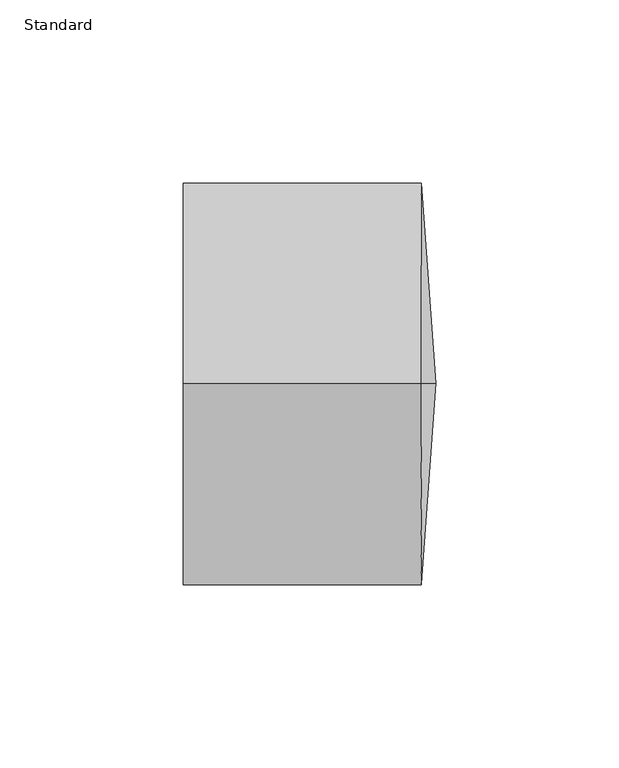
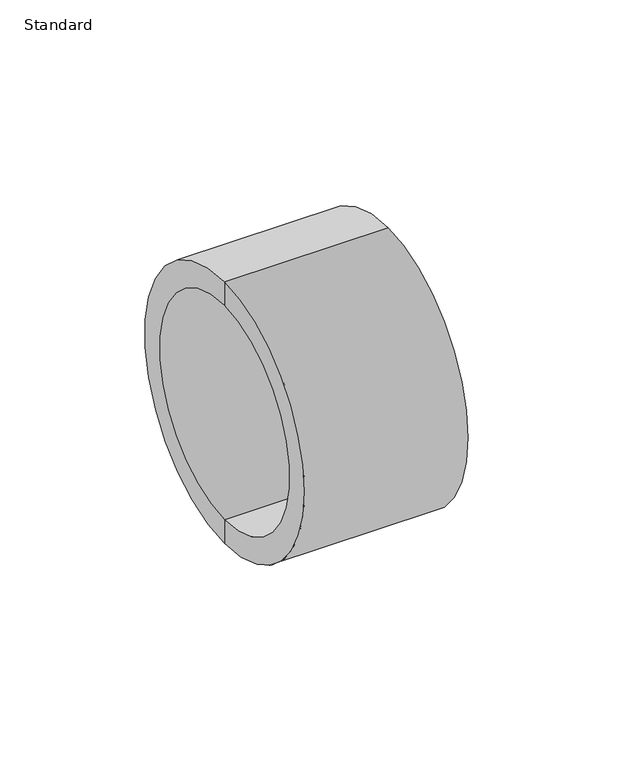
"""IFC4 building model written with IfcOpenShell, lengths in millimetres: pipe fitting geometry, Durapipe_PipeFitting_PVC_Cap : Standard."""

from ifc_helpers import new_model, si_unit, point, frame, origin, place, context, project, spatial, polyline, circle_curve, ellipse_curve, trimmed, source, transform, mapped, element, save
from ifc_brep_helpers import plane_surface, cylinder_surface, revolved_surface, advanced_brep


def standard_ca9f6d66(model_context):
    return source(origin(), model_context, "Body", "AdvancedBrep", [
        advanced_brep(
        [(0.0, 0.0, 0.0), (0.0, 0.0, 45.0), (0.0, 0.0, -45.0), (14.0, 0.0, -55.0), (14.0, 0.0, 55.0), (18.0, 0.0, 0.0), (-51.0, 0.0, -55.0), (-51.0, 0.0, 55.0), (-51.0, 0.0, -45.0), (-51.0, 0.0, 45.0)],
        [
            (0, 1),
            (1, 2, circle_curve(frame((0.0, 0.0, 0.0), z_axis=(-1.0, 0.0, 0.0), x_axis=(0.0, 0.0, 1.0)), 45.0)),
            (2, 0),
            (2, 1, circle_curve(frame((0.0, 0.0, 0.0), z_axis=(-1.0, 0.0, 0.0), x_axis=(0.0, 0.0, 1.0)), 45.0)),
            (3, 4, circle_curve(frame((14.0, 0.0, 0.0), z_axis=(1.0, 0.0, 0.0), x_axis=(0.0, 0.0, 1.0)), 55.0)),
            (4, 5, circle_curve(frame((-346.6641309, 0.0, 1.1244268), z_axis=(0.0, 1.0, 0.0), x_axis=(1.0, 0.0, 0.0)), 364.6658644)),
            (5, 3, circle_curve(frame((-346.6641309, 0.0, -1.1244268), z_axis=(0.0, 1.0, 0.0), x_axis=(1.0, 0.0, 0.0)), 364.6658644)),
            (4, 3, circle_curve(frame((14.0, 0.0, 0.0), z_axis=(1.0, 0.0, 0.0), x_axis=(0.0, 0.0, 1.0)), 55.0)),
            (6, 7, circle_curve(frame((-51.0, 0.0, 0.0), z_axis=(1.0, 0.0, 0.0), x_axis=(0.0, 0.0, 1.0)), 55.0)),
            (7, 4),
            (3, 6),
            (7, 6, circle_curve(frame((-51.0, 0.0, 0.0), z_axis=(1.0, 0.0, 0.0), x_axis=(0.0, 0.0, 1.0)), 55.0)),
            (8, 9, circle_curve(frame((-51.0, 0.0, 0.0), z_axis=(1.0, 0.0, 0.0), x_axis=(0.0, 0.0, 1.0)), 45.0)),
            (9, 7),
            (6, 8),
            (9, 8, circle_curve(frame((-51.0, 0.0, 0.0), z_axis=(1.0, 0.0, 0.0), x_axis=(0.0, 0.0, 1.0)), 45.0)),
            (1, 9),
            (8, 2),
        ],
        [
            plane_surface(frame((0.0, 0.0, 0.0), z_axis=(-1.0, 0.0, 0.0), x_axis=(0.0, 0.0, 1.0))),
            revolved_surface(trimmed(ellipse_curve(frame((-346.6641309, 0.0, 1.1244268), z_axis=(0.0, -1.0, 0.0), x_axis=(1.0, 0.0, 0.0)), 364.6658644, 364.6658644), [point((18.0, 0.0, 0.0))], [point((14.0, 0.0, 55.0))], True, "CARTESIAN"), (-1550.1299635, 0.0, 0.0), (-1.0, 0.0, 0.0)),
            cylinder_surface(frame((-1550.1299635, 0.0, 0.0), z_axis=(-1.0, 0.0, 0.0), x_axis=(0.0, 0.0, 1.0)), 55.0),
            plane_surface(frame((-51.0, 0.0, 0.0), z_axis=(-1.0, 0.0, 0.0), x_axis=(0.0, 0.0, 1.0))),
            revolved_surface(polyline([(-51.0, 0.0, 45.0), (0.0, 0.0, 45.0)]), (-1550.1299635, 0.0, 0.0), (-1.0, 0.0, 0.0)),
        ],
        [
            (0, [[1, 2, 3]]),
            (0, [[-3, 4, -1]]),
            (1, [[5, 6, 7]]),
            (1, [[8, -7, -6]]),
            (2, [[9, 10, -5, 11]]),
            (2, [[12, -11, -8, -10]]),
            (3, [[13, 14, -9, 15]]),
            (3, [[16, -15, -12, -14]]),
            (4, [[-2, 17, -13, 18]]),
            (4, [[-4, -18, -16, -17]]),
        ],
    ),
    ])


if __name__ == "__main__":
    model = new_model("IFC4")
    model_context = context("Model", 3, world=origin())
    ifc_project = project(units=[si_unit("LENGTHUNIT", "METRE", prefix="MILLI")], contexts=[model_context])
    site = spatial("IfcSite", under=ifc_project)
    building = spatial("IfcBuilding", under=site)
    placement = place(None, origin())
    standard_shape = standard_ca9f6d66(model_context)
    element("IfcPipeFitting", 1, ObjectType="Durapipe_PipeFitting_PVC_Cap : Standard", at=placement, inside=building, context=model_context, shape_type="MappedRepresentation", body=[
        mapped(standard_shape, transform((0.0, 0.0, 0.0), x_axis=(1.0, 0.0, 0.0), y_axis=(0.0, 1.0, 0.0), z_axis=(0.0, 0.0, 1.0))),
    ])
    save(model, "model.ifc")
